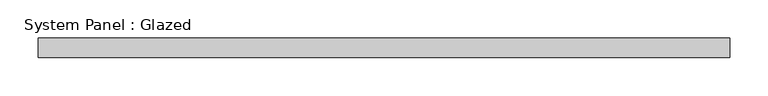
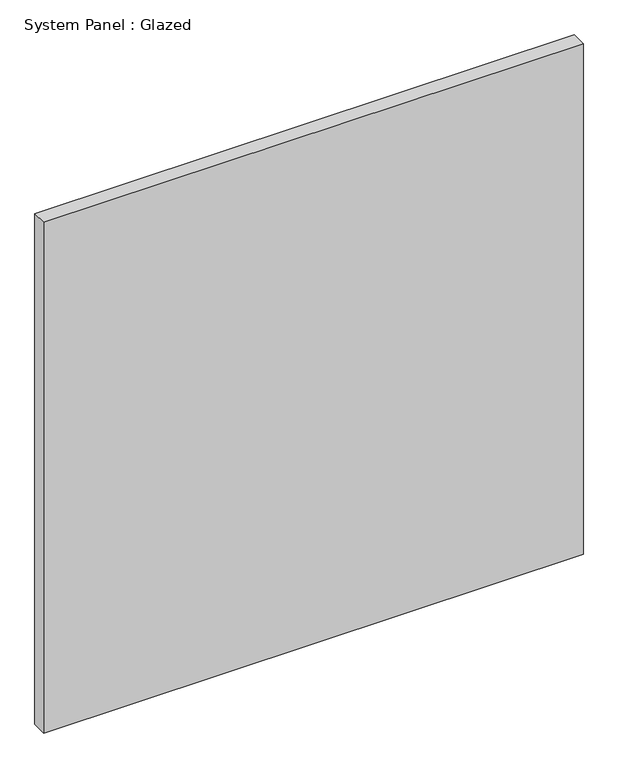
"""IFC4 building model written with IfcOpenShell, lengths in millimetres: plate geometry, System Panel : Glazed."""

from ifc_helpers import new_model, si_unit, origin, origin_with_axes, place, context, project, spatial, polyline, outline, extrude, source, transform, mapped, element, save


def system_panel_glazed_a4199f7b(model_context):
    return source(origin(), model_context, "Body", "SweptSolid", [
        extrude(outline(polyline([(450.0, 24.5), (-450.0, 24.5), (-450.0, 49.5), (450.0, 49.5), (450.0, 24.5)])), origin_with_axes(), (0.0, 0.0, 1.0), 900.0),
    ])


if __name__ == "__main__":
    model = new_model("IFC4")
    model_context = context("Model", 3, world=origin())
    ifc_project = project(units=[si_unit("LENGTHUNIT", "METRE", prefix="MILLI")], contexts=[model_context])
    site = spatial("IfcSite", under=ifc_project)
    building = spatial("IfcBuilding", under=site)
    placement = place(None, origin())
    system_panel_glazed_shape = system_panel_glazed_a4199f7b(model_context)
    element("IfcPlate", 1, ObjectType="System Panel : Glazed", at=placement, inside=building, context=model_context, shape_type="MappedRepresentation", body=[
        mapped(system_panel_glazed_shape, transform((0.0, 0.0, 0.0), x_axis=(1.0, 0.0, 0.0), y_axis=(0.0, 1.0, 0.0), z_axis=(0.0, 0.0, 1.0))),
    ])
    save(model, "model.ifc")
